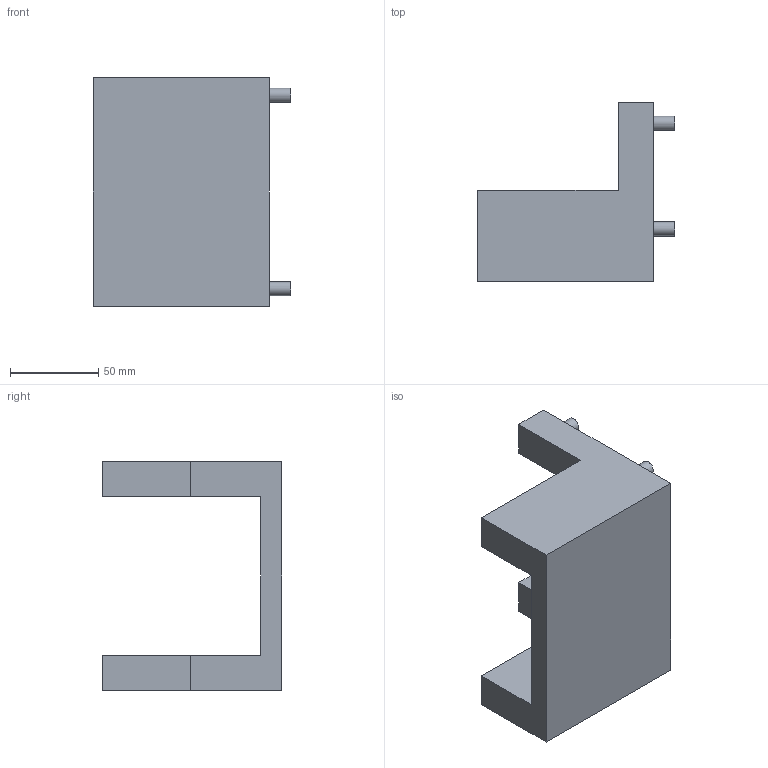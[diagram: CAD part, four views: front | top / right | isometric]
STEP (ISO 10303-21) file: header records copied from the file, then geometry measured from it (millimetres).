
FILE_DESCRIPTION(/* description */ (''),/* implementation_level */ '2;1');
FILE_NAME(/* name */ 'C:\Users\Jaime\Desktop\Universidad\MÁSTER ING. INDUSTRIAL\TFM\CD\PiezaF.stp',/* time_stamp */ '2018-02-15T23:59:02+01:00',/* author */ ('Jaime'),/* organization */ (''),/* preprocessor_version */ 'ST-DEVELOPER v16.5',/* originating_system */ 'Autodesk Inventor 2017',/* authorisation */ '');
FILE_SCHEMA (('AUTOMOTIVE_DESIGN { 1 0 10303 214 3 1 1 }'));
Length unit declared in the file: millimetre
Products named in the file (1): PiezaF
Bounding box: 112 x 102 x 130 mm (x, y, z)
Volume: 358412.7 mm3; surface area: 59926.4 mm2
Topology: 1 solids, 1 shells, 22 faces, 48 edges, 32 vertices
Faces by surface type: plane 18, cylinder 4
Full cylindrical faces by diameter (mm): 8 x4
Entity records: 604 total; most frequent: CARTESIAN_POINT 99, DIRECTION 98, ORIENTED_EDGE 88, EDGE_CURVE 44, LINE 36, VECTOR 36, VERTEX_POINT 32, AXIS2_PLACEMENT_3D 31
